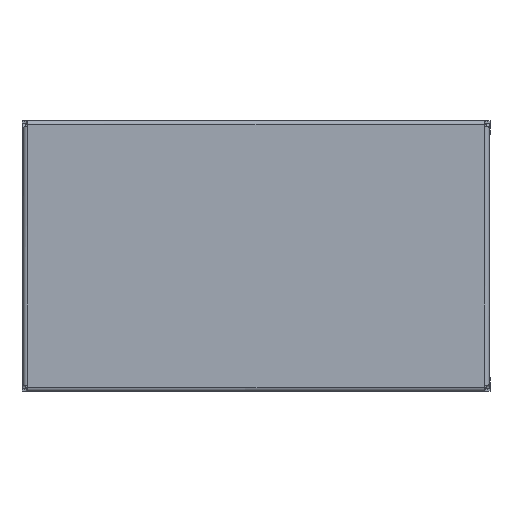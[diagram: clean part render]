
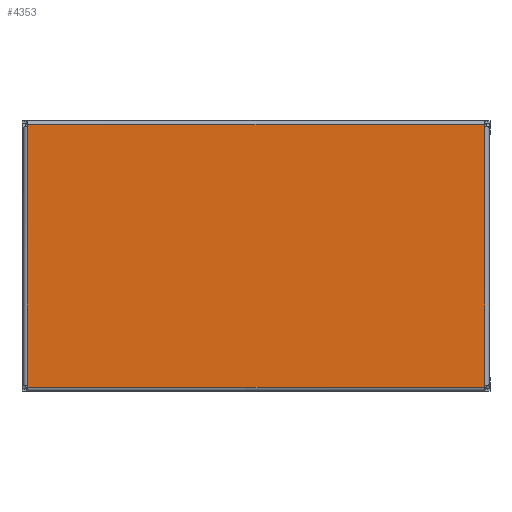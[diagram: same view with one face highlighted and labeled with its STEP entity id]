
A CAD part, top view. The second image highlights one B-rep face of the part: STEP entity #4353.
In plain terms, the highlighted planar face has unit normal (0, 0, 1).
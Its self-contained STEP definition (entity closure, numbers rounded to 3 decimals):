
#12 = CARTESIAN_POINT ( 'NONE',  ( 1.8, 2.25, 0. ) ) ;
#65 = LINE ( 'NONE', #1804, #7426 ) ;
#291 = DIRECTION ( 'NONE',  ( 1., 0., 0. ) ) ;
#468 = LINE ( 'NONE', #588, #1854 ) ;
#493 = CARTESIAN_POINT ( 'NONE',  ( 4.185, 3., 0. ) ) ;
#588 = CARTESIAN_POINT ( 'NONE',  ( 344., 196., 0. ) ) ;
#835 = VERTEX_POINT ( 'NONE', #4274 ) ;
#849 = CARTESIAN_POINT ( 'NONE',  ( 4.185, 196., 0. ) ) ;
#1107 = ORIENTED_EDGE ( 'NONE', *, *, #5741, .T. ) ;
#1486 = AXIS2_PLACEMENT_3D ( 'NONE', #5706, #2087, #4515 ) ;
#1544 = CARTESIAN_POINT ( 'NONE',  ( 339.815, 196., 0. ) ) ;
#1554 = DIRECTION ( 'NONE',  ( 1., 0., 0. ) ) ;
#1640 = DIRECTION ( 'NONE',  ( 0., 0., -1. ) ) ;
#1804 = CARTESIAN_POINT ( 'NONE',  ( 3.7, 196., 0. ) ) ;
#1854 = VECTOR ( 'NONE', #3004, 1000. ) ;
#1862 = AXIS2_PLACEMENT_3D ( 'NONE', #5324, #6030, #5446 ) ;
#1936 = VERTEX_POINT ( 'NONE', #3559 ) ;
#1950 = EDGE_CURVE ( 'NONE', #5517, #7666, #468, .T. ) ;
#2087 = DIRECTION ( 'NONE',  ( 0., 0., -1. ) ) ;
#2102 = DIRECTION ( 'NONE',  ( 0., 0., -1. ) ) ;
#2105 = EDGE_CURVE ( 'NONE', #1936, #3082, #65, .T. ) ;
#2110 = CIRCLE ( 'NONE', #1862, 2.5 ) ;
#2416 = DIRECTION ( 'NONE',  ( -1., 0., 0. ) ) ;
#2452 = EDGE_CURVE ( 'NONE', #835, #5517, #2110, .T. ) ;
#2879 = CIRCLE ( 'NONE', #6933, 2.5 ) ;
#3004 = DIRECTION ( 'NONE',  ( -1., 0., 0. ) ) ;
#3025 = LINE ( 'NONE', #5328, #4189 ) ;
#3082 = VERTEX_POINT ( 'NONE', #5767 ) ;
#3196 = CARTESIAN_POINT ( 'NONE',  ( 340.3, 3.875, 0. ) ) ;
#3245 = CARTESIAN_POINT ( 'NONE',  ( 339.815, 3., 0. ) ) ;
#3286 = PLANE ( 'NONE',  #1486 ) ;
#3339 = CARTESIAN_POINT ( 'NONE',  ( 0., 3., 0. ) ) ;
#3467 = EDGE_CURVE ( 'NONE', #7780, #3733, #4653, .T. ) ;
#3559 = CARTESIAN_POINT ( 'NONE',  ( 3.7, 195.125, 0. ) ) ;
#3585 = DIRECTION ( 'NONE',  ( 0., -1., 0. ) ) ;
#3733 = VERTEX_POINT ( 'NONE', #3245 ) ;
#3788 = AXIS2_PLACEMENT_3D ( 'NONE', #4532, #2102, #291 ) ;
#3978 = DIRECTION ( 'NONE',  ( 1., 0., 0. ) ) ;
#4189 = VECTOR ( 'NONE', #4654, 1000. ) ;
#4237 = EDGE_CURVE ( 'NONE', #7666, #1936, #2879, .T. ) ;
#4268 = ORIENTED_EDGE ( 'NONE', *, *, #1950, .T. ) ;
#4274 = CARTESIAN_POINT ( 'NONE',  ( 340.3, 195.125, 0. ) ) ;
#4353 = ADVANCED_FACE ( 'NONE', ( #4476 ), #3286, .F. ) ;
#4411 = ORIENTED_EDGE ( 'NONE', *, *, #6416, .T. ) ;
#4476 = FACE_OUTER_BOUND ( 'NONE', #7712, .T. ) ;
#4515 = DIRECTION ( 'NONE',  ( -1., 0., 0. ) ) ;
#4532 = CARTESIAN_POINT ( 'NONE',  ( 342.2, 2.25, 0. ) ) ;
#4646 = VERTEX_POINT ( 'NONE', #3196 ) ;
#4653 = LINE ( 'NONE', #3339, #4925 ) ;
#4654 = DIRECTION ( 'NONE',  ( 0., 1., 0. ) ) ;
#4768 = ORIENTED_EDGE ( 'NONE', *, *, #2105, .T. ) ;
#4925 = VECTOR ( 'NONE', #1554, 1000. ) ;
#5067 = EDGE_CURVE ( 'NONE', #3733, #4646, #5821, .T. ) ;
#5147 = ORIENTED_EDGE ( 'NONE', *, *, #4237, .T. ) ;
#5324 = CARTESIAN_POINT ( 'NONE',  ( 342.2, 196.75, 0. ) ) ;
#5328 = CARTESIAN_POINT ( 'NONE',  ( 340.3, 3., 0. ) ) ;
#5446 = DIRECTION ( 'NONE',  ( -1., 0., 0. ) ) ;
#5517 = VERTEX_POINT ( 'NONE', #1544 ) ;
#5706 = CARTESIAN_POINT ( 'NONE',  ( 0., 199., 0. ) ) ;
#5741 = EDGE_CURVE ( 'NONE', #3082, #7780, #7469, .T. ) ;
#5767 = CARTESIAN_POINT ( 'NONE',  ( 3.7, 3.875, 0. ) ) ;
#5821 = CIRCLE ( 'NONE', #3788, 2.5 ) ;
#5945 = ORIENTED_EDGE ( 'NONE', *, *, #2452, .T. ) ;
#6030 = DIRECTION ( 'NONE',  ( 0., 0., -1. ) ) ;
#6100 = DIRECTION ( 'NONE',  ( 0., 0., -1. ) ) ;
#6145 = ORIENTED_EDGE ( 'NONE', *, *, #5067, .T. ) ;
#6416 = EDGE_CURVE ( 'NONE', #4646, #835, #3025, .T. ) ;
#6933 = AXIS2_PLACEMENT_3D ( 'NONE', #6956, #1640, #3978 ) ;
#6956 = CARTESIAN_POINT ( 'NONE',  ( 1.8, 196.75, 0. ) ) ;
#7190 = ORIENTED_EDGE ( 'NONE', *, *, #3467, .T. ) ;
#7349 = AXIS2_PLACEMENT_3D ( 'NONE', #12, #6100, #2416 ) ;
#7426 = VECTOR ( 'NONE', #3585, 1000. ) ;
#7469 = CIRCLE ( 'NONE', #7349, 2.5 ) ;
#7666 = VERTEX_POINT ( 'NONE', #849 ) ;
#7712 = EDGE_LOOP ( 'NONE', ( #5945, #4268, #5147, #4768, #1107, #7190, #6145, #4411 ) ) ;
#7780 = VERTEX_POINT ( 'NONE', #493 ) ;
